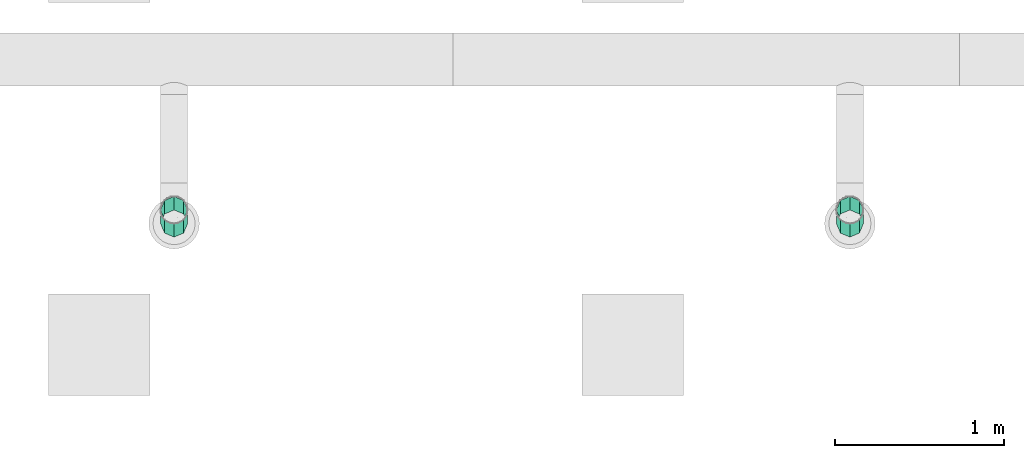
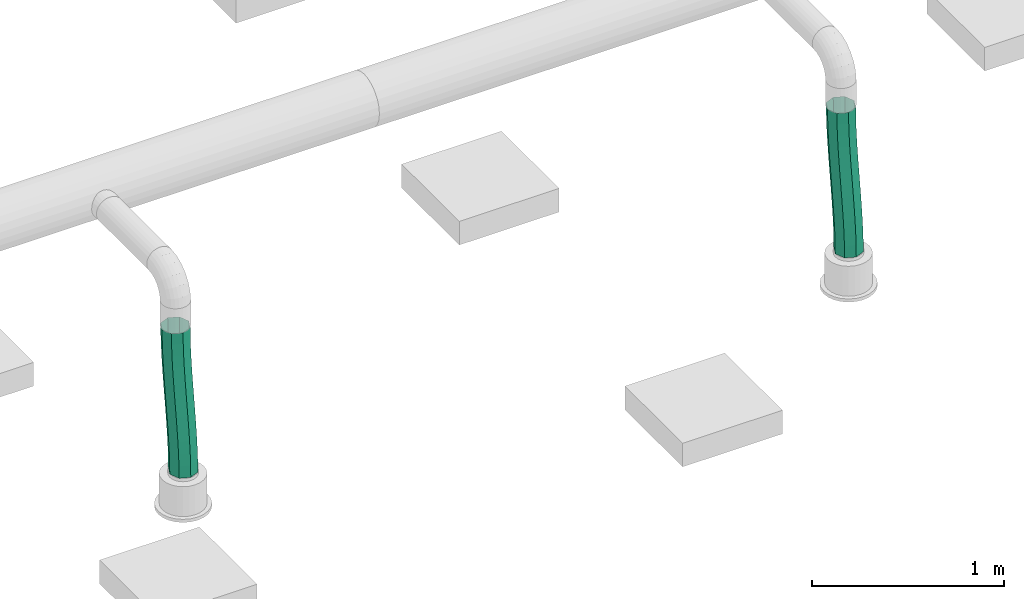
# One storey, part 235 of 374: 2 flow segments.
"""IFC2X3 building model written with IfcOpenShell, lengths in metres."""

import ifcopenshell
import ifcopenshell.guid

model = None  # the IFC model being written
_history = None  # IfcOwnerHistory: only IFC2X3 demands one
_inside = {}  # id of a spatial element -> (the spatial element, [elements in it])
_under = {}  # id of a project, library or spatial element -> (it, [spatial elements below it])
_declared = {}  # id of a project -> (the project, [libraries it declares])
_typed = {}  # id of a type object -> (the type object, [elements of that type])
_made_of = {}  # id of a material, layer set ... -> (it, [elements and type objects made of it])


def new_model(schema):
    """Start an empty IFC model of exactly this schema.

    Asked for "IFC4X3", IfcOpenShell would pick the latest addendum, in which some entities
    have other attributes; the version numbers below select the first issue.
    IFC2X3 requires an IfcOwnerHistory on every rooted entity: one is made here for all.
    """
    global model, _history
    if schema == "IFC4X3":
        model = ifcopenshell.file(schema_version=(4, 3, 0, 0))
    else:
        model = ifcopenshell.file(schema=schema)
    _inside.clear()
    _under.clear()
    _declared.clear()
    _typed.clear()
    _made_of.clear()
    _history = None
    if model.schema == "IFC2X3":
        org = make("IfcOrganization", Name="unknown")
        user = make(
            "IfcPersonAndOrganization",
            ThePerson=make("IfcPerson", FamilyName="unknown"),
            TheOrganization=org,
        )
        app = make(
            "IfcApplication",
            ApplicationDeveloper=org,
            Version="unknown",
            ApplicationFullName="unknown",
            ApplicationIdentifier="unknown",
        )
        _history = make(
            "IfcOwnerHistory",
            OwningUser=user,
            OwningApplication=app,
            ChangeAction="ADDED",
            CreationDate=0,
        )
    return model


def make(cls, **values):
    """One entity of the class cls with the attributes given. An attribute that is None is left unset."""
    return model.create_entity(
        cls, **{name: value for name, value in values.items() if value is not None}
    )


def rooted(cls, **values):
    """An entity with a GlobalId (a new one), such as an element, a storey or a relation."""
    return make(cls, GlobalId=ifcopenshell.guid.new(), OwnerHistory=_history, **values)


def si_unit(unit_type, name, prefix=None):
    """IfcSIUnit, for example si_unit("LENGTHUNIT", "METRE", prefix="MILLI")."""
    return make("IfcSIUnit", UnitType=unit_type, Prefix=prefix, Name=name)


def assignment(units):
    """IfcUnitAssignment: the units of a project."""
    return None if units is None else make("IfcUnitAssignment", Units=units)


def point(xyz):
    """IfcCartesianPoint."""
    return None if xyz is None else make("IfcCartesianPoint", Coordinates=xyz)


def direction(xyz):
    """IfcDirection."""
    return None if xyz is None else make("IfcDirection", DirectionRatios=xyz)


def frame(location, z_axis=None, x_axis=None):
    """IfcAxis2Placement3D, a coordinate frame: its origin and axes. An axis left out is left unset."""
    return make(
        "IfcAxis2Placement3D",
        Location=point(location),
        Axis=direction(z_axis),
        RefDirection=direction(x_axis),
    )


def origin():
    """The frame at (0, 0, 0) with its axes left unset."""
    return frame((0.0, 0.0, 0.0))


def place(relative_to, where):
    """IfcLocalPlacement: puts the frame where relative to a parent placement (None: the world)."""
    return make(
        "IfcLocalPlacement", PlacementRelTo=relative_to, RelativePlacement=where
    )


def context(
    kind, dimensions, precision=None, world=None, true_north=None, identifier=None
):
    """IfcGeometricRepresentationContext, for example the 3D "Model" context."""
    return make(
        "IfcGeometricRepresentationContext",
        ContextIdentifier=identifier,
        ContextType=kind,
        CoordinateSpaceDimension=dimensions,
        Precision=precision,
        WorldCoordinateSystem=world,
        TrueNorth=true_north,
    )


def subcontext(parent, identifier, kind, view, scale=None):
    """IfcGeometricRepresentationSubContext, for example "Body" below "Model"."""
    return make(
        "IfcGeometricRepresentationSubContext",
        ContextIdentifier=identifier,
        ContextType=kind,
        ParentContext=parent,
        TargetScale=scale,
        TargetView=view,
    )


def project(units=None, contexts=None):
    """IfcProject with its units and contexts."""
    return rooted(
        "IfcProject",
        Name="project",
        RepresentationContexts=contexts,
        UnitsInContext=assignment(units),
    )


def spatial(cls, under=None, at=None, **own):
    """A site, building, storey or space (cls), placed at a placement, below another one or the project."""
    s = rooted(cls, ObjectPlacement=at, **own)
    if under is not None:
        _under.setdefault(under.id(), (under, []))[1].append(s)
    return s


def faces_of(points, faces, orient=None, outer=None):
    """IfcFace entities. A face is a list of loops; a loop is a list of indices into points, from 0.

    orient and outer hold one flag for each loop. By default every Orientation is true, the
    first loop of a face is its IfcFaceOuterBound and the others are IfcFaceBound.
    """
    made = []
    for i, loops in enumerate(faces):
        bounds = []
        for j, loop in enumerate(loops):
            is_outer = j == 0 if outer is None else outer[i][j]
            bounds.append(
                make(
                    "IfcFaceOuterBound" if is_outer else "IfcFaceBound",
                    Bound=make("IfcPolyLoop", Polygon=[points[k] for k in loop]),
                    Orientation=True if orient is None else orient[i][j],
                )
            )
        made.append(make("IfcFace", Bounds=bounds))
    return made


def open_shell(faces, orient=None, outer=None):
    """The faces of one IfcOpenShell. surface_model builds it on its shared points."""
    return ("IfcOpenShell", faces, orient, outer)


def surface_model(cls, points, shells):
    """IfcFaceBasedSurfaceModel or IfcShellBasedSurfaceModel (cls): surfaces that need not close."""
    shared = [point(p) for p in points]
    made = [make(c, CfsFaces=faces_of(shared, fs, o, b)) for c, fs, o, b in shells]
    if cls == "IfcFaceBasedSurfaceModel":
        return make(cls, FbsmFaces=made)
    return make(cls, SbsmBoundary=made)


def shape(context_of_items, identifier, shape_type, items):
    """IfcShapeRepresentation: the items that make up one representation, for example the "Body"."""
    return make(
        "IfcShapeRepresentation",
        ContextOfItems=context_of_items,
        RepresentationIdentifier=identifier,
        RepresentationType=shape_type,
        Items=items,
    )


def source(mapping_origin, context_of_items, identifier, shape_type, items):
    """IfcRepresentationMap: a shape defined once, which mapped items show again and again."""
    return make(
        "IfcRepresentationMap",
        MappingOrigin=mapping_origin,
        MappedRepresentation=shape(context_of_items, identifier, shape_type, items),
    )


def transform(
    local_origin,
    x_axis=None,
    y_axis=None,
    z_axis=None,
    scale=None,
    scale2=None,
    scale3=None,
    uniform=True,
):
    """IfcCartesianTransformationOperator3D, or its non-uniform kind. x_axis, y_axis, z_axis: its Axis1, 2, 3."""
    if uniform:
        return make(
            "IfcCartesianTransformationOperator3D",
            Axis1=direction(x_axis),
            Axis2=direction(y_axis),
            LocalOrigin=point(local_origin),
            Scale=scale,
            Axis3=direction(z_axis),
        )
    return make(
        "IfcCartesianTransformationOperator3DnonUniform",
        Axis1=direction(x_axis),
        Axis2=direction(y_axis),
        LocalOrigin=point(local_origin),
        Scale=scale,
        Axis3=direction(z_axis),
        Scale2=scale2,
        Scale3=scale3,
    )


def mapped(mapping_source, mapping_target):
    """IfcMappedItem: shows the shape of a source again, moved by a transform."""
    return make(
        "IfcMappedItem", MappingSource=mapping_source, MappingTarget=mapping_target
    )


def made_of(thing, what):
    """Note that an element or type object is made of a material, layer set ...; save() writes the relation."""
    if what is not None:
        _made_of.setdefault(what.id(), (what, []))[1].append(thing)
    return thing


def element(
    cls,
    number,
    at=None,
    inside=None,
    cuts=None,
    type_object=None,
    material=None,
    context=None,
    identifier="Body",
    shape_type=None,
    held_by="IfcProductDefinitionShape",
    body=None,
    shapes=None,
    **own,
):
    """One element of the class cls, such as IfcWall. Its Tag is "e" and its number.

    at: its placement. inside: the storey or other place that contains it. cuts: it is an
    opening in that element (IfcRelVoidsElement). A single representation is given by context,
    identifier, shape_type and body (its items); several are given by shapes. held_by: the class
    of the entity that holds the representations. save() writes the other relations.
    """
    e = rooted(cls, Tag="e%d" % number, ObjectPlacement=at, **own)
    if body is not None:
        shapes = [shape(context, identifier, shape_type, body)]
    if shapes is not None:
        e.Representation = make(held_by, Representations=shapes)
    if inside is not None:
        _inside.setdefault(inside.id(), (inside, []))[1].append(e)
    if cuts is not None:
        rooted(
            "IfcRelVoidsElement", RelatingBuildingElement=cuts, RelatedOpeningElement=e
        )
    if type_object is not None:
        _typed.setdefault(type_object.id(), (type_object, []))[1].append(e)
    return made_of(e, material)


def aggregate(whole, parts):
    """IfcRelAggregates: a whole, such as a stair, and the parts it consists of."""
    return rooted("IfcRelAggregates", RelatingObject=whole, RelatedObjects=parts)


def save(model, path):
    """Write the relations noted so far, then the file.

    IfcRelAggregates (storeys below a building ...), IfcRelContainedInSpatialStructure (elements
    in a storey), IfcRelDefinesByType, IfcRelAssociatesMaterial and IfcRelDeclares: one each for
    every whole, place, type object, material and project.
    """
    for whole, parts in _under.values():
        aggregate(whole, parts)
    for where, things in _inside.values():
        rooted(
            "IfcRelContainedInSpatialStructure",
            RelatedElements=things,
            RelatingStructure=where,
        )
    for kind, things in _typed.values():
        rooted("IfcRelDefinesByType", RelatedObjects=things, RelatingType=kind)
    for what, things in _made_of.values():
        rooted("IfcRelAssociatesMaterial", RelatedObjects=things, RelatingMaterial=what)
    for by, libraries in _declared.values():
        rooted("IfcRelDeclares", RelatingContext=by, RelatedDefinitions=libraries)
    model.write(path)


model = new_model("IFC2X3")

# Units and contexts
model_context = context("Model", 3, precision=1e-05, world=origin(), true_north=direction((-0.4480736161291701, 0.8939966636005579)))
body_context = subcontext(model_context, "Body", "Model", "MODEL_VIEW")
ifc_project = project(units=[si_unit("LENGTHUNIT", "METRE"), si_unit("AREAUNIT", "SQUARE_METRE"), si_unit("VOLUMEUNIT", "CUBIC_METRE"), si_unit("PLANEANGLEUNIT", "RADIAN"), si_unit("THERMODYNAMICTEMPERATUREUNIT", "KELVIN"), si_unit("MASSUNIT", "GRAM", prefix="KILO"), si_unit("TIMEUNIT", "SECOND")], contexts=[model_context])

# Site, building, storey
site_placement = place(None, origin())
site = spatial("IfcSite", under=ifc_project, at=site_placement, Name="Site 1", CompositionType="ELEMENT")
building_placement = place(site_placement, origin())
building = spatial("IfcBuilding", under=site, at=building_placement, Name="Undefined", CompositionType="ELEMENT")
storey_placement = place(building_placement, origin())
storey = spatial("IfcBuildingStorey", under=building, at=storey_placement, Name="Rez de chauss\x8ee", CompositionType="ELEMENT", Elevation=0.0)

# Flow segments
shared_shape_1 = source(origin(), body_context, "Body", "SurfaceModel", [
    surface_model("IfcFaceBasedSurfaceModel", [(0.095911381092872, 1.776356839e-15, 0.0), (0.057778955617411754, 0.04790565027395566, 0.0), (0.0, 0.0, 0.0), (0.039908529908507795, -0.04643643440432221, -1.0802072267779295e-06), (-0.05576709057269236, -0.04966194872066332, -0.0010921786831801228), (-0.014403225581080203, -0.09480686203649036, -0.0010661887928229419), (-0.10982704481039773, -0.10061373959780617, -0.0030471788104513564), (-0.067362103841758, -0.1447244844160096, -0.002982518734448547), (-0.1625398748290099, -0.1524448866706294, -0.005638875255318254), (-0.11930632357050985, -0.19580250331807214, -0.005537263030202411), (-0.21426131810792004, -0.20475372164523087, -0.00864508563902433), (-0.1705741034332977, -0.24765412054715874, -0.008517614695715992), (-0.2653408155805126, -0.25714539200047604, -0.01184746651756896), (-0.22150366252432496, -0.29989253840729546, -0.01171076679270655), (-0.31612044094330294, -0.3092305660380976, -0.01503138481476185), (-0.27243322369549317, -0.3521309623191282, -0.014903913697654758), (-0.3669345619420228, -0.36062497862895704, -0.017985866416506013), (-0.3237010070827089, -0.4039825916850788, -0.017884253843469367), (-0.4181101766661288, -0.4109498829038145, -0.02050364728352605), (-0.3756452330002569, -0.4550606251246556, -0.020438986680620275), (-0.469967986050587, -0.459833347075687, -0.0223813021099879), (-0.42860412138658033, -0.5049782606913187, -0.0223553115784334), (-0.5228244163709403, -0.5069122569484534, -0.0234193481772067), (-0.4829158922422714, -0.5533486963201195, -0.02342042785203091), (-0.5770511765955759, -0.5518794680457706, -0.02342153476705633), (-0.5389187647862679, -0.5997851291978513, -0.023421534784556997), (0.030535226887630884, 0.08155715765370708, -0.04329420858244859), (-0.027979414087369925, 0.033042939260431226, -0.043293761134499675), (-0.08434932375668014, -0.01715397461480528, -0.044397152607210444), (-0.1388653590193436, -0.06853413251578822, -0.046368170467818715), (-0.19189655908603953, -0.12067723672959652, -0.04897517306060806), (-0.24380591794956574, -0.1731754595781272, -0.051992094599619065), (-0.29494752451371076, -0.22563061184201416, -0.05519829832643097), (-0.34566504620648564, -0.2776523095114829, -0.05837839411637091), (-0.3962912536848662, -0.3288573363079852, -0.06132216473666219), (-0.44714849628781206, -0.3788702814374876, -0.0638246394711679), (-0.49855021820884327, -0.42732537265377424, -0.06568627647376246), (-0.5508038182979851, -0.4738693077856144, -0.06671310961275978), (-0.6042948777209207, -0.5182279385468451, -0.06671574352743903), (0.030139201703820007, 0.08124192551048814, -0.10452146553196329), (-0.02763975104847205, 0.033336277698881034, -0.10452146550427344), (-0.0834068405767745, -0.016325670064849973, -0.10561364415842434), (-0.13746679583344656, -0.0672774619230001, -0.10756864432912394), (-0.19017962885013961, -0.11910861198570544, -0.11016034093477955), (-0.24190107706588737, -0.17141745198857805, -0.11316655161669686), (-0.2929805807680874, -0.2238091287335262, -0.11636893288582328), (-0.343760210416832, -0.275894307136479, -0.11955285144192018), (-0.39457433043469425, -0.32728871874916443, -0.12250733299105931), (-0.44574993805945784, -0.37761361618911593, -0.12502511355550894), (-0.4976077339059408, -0.42649706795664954, -0.12690276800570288), (-0.5504641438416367, -0.4735759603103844, -0.1279408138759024), (-0.6046908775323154, -0.5185431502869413, -0.12794300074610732), (0.056822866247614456, 0.04714461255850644, -0.14781567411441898), (0.000820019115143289, 0.0007081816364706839, -0.14781675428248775), (-0.05349173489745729, -0.047662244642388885, -0.14888186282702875), (-0.10645061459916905, -0.09757986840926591, -0.15079819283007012), (-0.15839483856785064, -0.14865789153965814, -0.15335293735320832), (-0.209662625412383, -0.2005095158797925, -0.15633328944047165), (-0.26059219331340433, -0.25274794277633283, -0.15952644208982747), (-0.31152176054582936, -0.3049863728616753, -0.1627195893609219), (-0.3627895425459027, -0.35683800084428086, -0.16569992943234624), (-0.41473375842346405, -0.40791602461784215, -0.16825466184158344), (-0.4676926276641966, -0.4578336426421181, -0.17017098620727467), (-0.5220043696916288, -0.5062040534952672, -0.17123610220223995), (-0.578007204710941, -0.5526404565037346, -0.17123720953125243), (0.0949552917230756, -0.0007610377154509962, -0.14781567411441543), (0.04072854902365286, -0.045728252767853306, -0.14781783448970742), (-0.012127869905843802, -0.09280715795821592, -0.14885587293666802), (-0.06398567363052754, -0.14169061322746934, -0.15073353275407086), (-0.11516128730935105, -0.1920155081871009, -0.15325132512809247), (-0.16597541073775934, -0.2434099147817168, -0.15620581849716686), (-0.21675504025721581, -0.2954950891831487, -0.15938974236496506), (-0.2678345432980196, -0.3478867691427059, -0.16259211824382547), (-0.31955598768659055, -0.4001956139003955, -0.16559831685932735), (-0.3722688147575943, -0.45202676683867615, -0.16819000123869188), (-0.4263287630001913, -0.5029785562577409, -0.17014499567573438), (-0.4820958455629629, -0.552640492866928, -0.17123718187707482), (-0.5398747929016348, -0.6005461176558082, -0.1712372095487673), (0.12219902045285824, -0.034412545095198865, -0.10452146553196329), (0.0687079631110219, -0.07877119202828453, -0.1045240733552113), (0.016454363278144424, -0.12531513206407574, -0.1055508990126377), (-0.034947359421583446, -0.1737702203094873, -0.1074125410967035), (-0.08580460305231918, -0.22378315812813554, -0.10991502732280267), (-0.13643081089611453, -0.27498817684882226, -0.11285880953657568), (-0.18714833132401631, -0.3270098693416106, -0.11603891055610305), (-0.2382899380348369, -0.37946502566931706, -0.11924510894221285), (-0.2901992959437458, -0.4319632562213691, -0.12226201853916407), (-0.3432304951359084, -0.48410636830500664, -0.12486900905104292), (-0.397746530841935, -0.5354865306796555, -0.12684002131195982), (-0.4541164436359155, -0.5856834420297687, -0.12794342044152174), (-0.5126310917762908, -0.6341976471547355, -0.1279430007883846), (0.12259504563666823, -0.03409731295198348, -0.04329420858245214), (0.06836830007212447, -0.07906453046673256, -0.04329636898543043), (0.015511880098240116, -0.12614343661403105, -0.044334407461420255), (-0.036345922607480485, -0.17502689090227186, -0.04621206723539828), (-0.08752153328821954, -0.22535178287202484, -0.048729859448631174), (-0.13833565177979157, -0.2767461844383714, -0.05168435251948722), (-0.18911527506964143, -0.32883135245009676, -0.054868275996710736), (-0.24019477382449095, -0.38122302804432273, -0.05807065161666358), (-0.2919162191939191, -0.4335318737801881, -0.06107685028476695), (-0.3446290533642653, -0.48536303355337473, -0.0636685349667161), (-0.3986890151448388, -0.5363148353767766, -0.0656235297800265), (-0.45445611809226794, -0.585976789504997, -0.06671571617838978), (-0.5122350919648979, -0.6338824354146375, -0.06671574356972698)], [open_shell([[[0, 1, 2]], [[2, 3, 0]], [[3, 2, 4]], [[4, 5, 3]], [[5, 4, 6]], [[6, 7, 5]], [[7, 6, 8]], [[8, 9, 7]], [[9, 8, 10]], [[10, 11, 9]], [[11, 10, 12]], [[12, 13, 11]], [[13, 12, 14]], [[14, 15, 13]], [[15, 14, 16]], [[16, 17, 15]], [[17, 16, 18]], [[18, 19, 17]], [[19, 18, 20]], [[20, 21, 19]], [[21, 20, 22]], [[22, 23, 21]], [[23, 22, 24]], [[24, 25, 23]], [[1, 26, 27]], [[27, 2, 1]], [[2, 27, 28]], [[28, 4, 2]], [[4, 28, 29]], [[29, 6, 4]], [[6, 29, 30]], [[30, 8, 6]], [[8, 30, 31]], [[31, 10, 8]], [[10, 31, 32]], [[32, 12, 10]], [[12, 32, 33]], [[33, 14, 12]], [[14, 33, 34]], [[34, 16, 14]], [[16, 34, 35]], [[35, 18, 16]], [[18, 35, 36]], [[36, 20, 18]], [[20, 36, 37]], [[37, 22, 20]], [[22, 37, 38]], [[38, 24, 22]], [[26, 39, 40]], [[40, 27, 26]], [[27, 40, 41]], [[41, 28, 27]], [[28, 41, 42]], [[42, 29, 28]], [[29, 42, 43]], [[43, 30, 29]], [[30, 43, 44]], [[44, 31, 30]], [[31, 44, 45]], [[45, 32, 31]], [[32, 45, 46]], [[46, 33, 32]], [[33, 46, 47]], [[47, 34, 33]], [[34, 47, 48]], [[48, 35, 34]], [[35, 48, 49]], [[49, 36, 35]], [[36, 49, 50]], [[50, 37, 36]], [[37, 50, 51]], [[51, 38, 37]], [[39, 52, 53]], [[53, 40, 39]], [[40, 53, 54]], [[54, 41, 40]], [[41, 54, 55]], [[55, 42, 41]], [[42, 55, 56]], [[56, 43, 42]], [[43, 56, 57]], [[57, 44, 43]], [[44, 57, 58]], [[58, 45, 44]], [[45, 58, 59]], [[59, 46, 45]], [[46, 59, 60]], [[60, 47, 46]], [[47, 60, 61]], [[61, 48, 47]], [[48, 61, 62]], [[62, 49, 48]], [[49, 62, 63]], [[63, 50, 49]], [[50, 63, 64]], [[64, 51, 50]], [[52, 65, 66]], [[66, 53, 52]], [[53, 66, 67]], [[67, 54, 53]], [[54, 67, 68]], [[68, 55, 54]], [[55, 68, 69]], [[69, 56, 55]], [[56, 69, 70]], [[70, 57, 56]], [[57, 70, 71]], [[71, 58, 57]], [[58, 71, 72]], [[72, 59, 58]], [[59, 72, 73]], [[73, 60, 59]], [[60, 73, 74]], [[74, 61, 60]], [[61, 74, 75]], [[75, 62, 61]], [[62, 75, 76]], [[76, 63, 62]], [[63, 76, 77]], [[77, 64, 63]], [[65, 78, 79]], [[79, 66, 65]], [[66, 79, 80]], [[80, 67, 66]], [[67, 80, 81]], [[81, 68, 67]], [[68, 81, 82]], [[82, 69, 68]], [[69, 82, 83]], [[83, 70, 69]], [[70, 83, 84]], [[84, 71, 70]], [[71, 84, 85]], [[85, 72, 71]], [[72, 85, 86]], [[86, 73, 72]], [[73, 86, 87]], [[87, 74, 73]], [[74, 87, 88]], [[88, 75, 74]], [[75, 88, 89]], [[89, 76, 75]], [[76, 89, 90]], [[90, 77, 76]], [[78, 91, 92]], [[92, 79, 78]], [[79, 92, 93]], [[93, 80, 79]], [[80, 93, 94]], [[94, 81, 80]], [[81, 94, 95]], [[95, 82, 81]], [[82, 95, 96]], [[96, 83, 82]], [[83, 96, 97]], [[97, 84, 83]], [[84, 97, 98]], [[98, 85, 84]], [[85, 98, 99]], [[99, 86, 85]], [[86, 99, 100]], [[100, 87, 86]], [[87, 100, 101]], [[101, 88, 87]], [[88, 101, 102]], [[102, 89, 88]], [[89, 102, 103]], [[103, 90, 89]], [[91, 0, 3]], [[3, 92, 91]], [[92, 3, 5]], [[5, 93, 92]], [[93, 5, 7]], [[7, 94, 93]], [[94, 7, 9]], [[9, 95, 94]], [[95, 9, 11]], [[11, 96, 95]], [[96, 11, 13]], [[13, 97, 96]], [[97, 13, 15]], [[15, 98, 97]], [[98, 15, 17]], [[17, 99, 98]], [[99, 17, 19]], [[19, 100, 99]], [[100, 19, 21]], [[21, 101, 100]], [[101, 21, 23]], [[23, 102, 101]], [[102, 23, 25]], [[25, 103, 102]]])]),
])
flow_segment_1_placement = place(storey_placement, origin())
element("IfcFlowSegment", 1, at=flow_segment_1_placement, inside=storey, Name="Tube flexible", ObjectType="Tube flexible", context=body_context, shape_type="MappedRepresentation", body=[
    mapped(shared_shape_1, transform((18.233432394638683, 2.0149472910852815, 3.4049618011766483), x_axis=(-0.2443032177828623, -0.5728987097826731, 0.7823701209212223), y_axis=(0.2946538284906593, 0.724810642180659, 0.6227589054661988), z_axis=(-0.923847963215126, 0.3826703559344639, -0.008266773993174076))),
])
shared_shape_2 = source(origin(), body_context, "Body", "SurfaceModel", [
    surface_model("IfcFaceBasedSurfaceModel", [(0.09591138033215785, 8.8817842e-16, 0.0), (0.057778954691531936, 0.04790565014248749, -1.776356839e-15), (0.0, 0.0, 0.0), (0.0399085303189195, -0.04643643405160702, -1.0801864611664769e-06), (-0.05576708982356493, -0.0496619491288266, -0.001092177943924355), (-0.014403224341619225, -0.09480686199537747, -0.0010661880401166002), (-0.10982704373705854, -0.10061374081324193, -0.003047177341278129), (-0.06736210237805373, -0.14472448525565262, -0.002982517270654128), (-0.16253987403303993, -0.1524448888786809, -0.005638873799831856), (-0.1193063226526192, -0.1958025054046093, -0.00553726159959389), (-0.21426131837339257, -0.2047537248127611, -0.008645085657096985), (-0.17057410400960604, -0.2476541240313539, -0.008517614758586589), (-0.26534081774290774, -0.25714539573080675, -0.011847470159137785), (-0.22150366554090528, -0.29989254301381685, -0.011710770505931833), (-0.3161204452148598, -0.30923056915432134, -0.01503139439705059), (-0.2724332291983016, -0.3521309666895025, -0.014903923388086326), (-0.3669345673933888, -0.36062497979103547, -0.017985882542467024), (-0.32370101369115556, -0.40398259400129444, -0.017884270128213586), (-0.41811018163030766, -0.4109498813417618, -0.020503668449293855), (-0.3756452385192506, -0.4550606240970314, -0.020439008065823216), (-0.4699679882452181, -0.45983334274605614, -0.022381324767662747), (-0.4286041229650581, -0.5049782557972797, -0.022355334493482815), (-0.5228244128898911, -0.5069122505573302, -0.023419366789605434), (-0.4829158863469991, -0.5533486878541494, -0.023420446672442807), (-0.577051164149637, -0.5518794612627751, -0.023421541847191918), (-0.538918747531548, -0.5997851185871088, -0.023421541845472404), (0.03053522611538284, 0.08155715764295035, -0.043294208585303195), (-0.02797941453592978, 0.03304293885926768, -0.043293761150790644), (-0.084349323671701, -0.017153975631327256, -0.04439715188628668), (-0.1388653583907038, -0.06853413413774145, -0.046368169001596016), (-0.19189655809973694, -0.12067723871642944, -0.04897517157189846), (-0.2438059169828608, -0.17317546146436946, -0.05199209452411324), (-0.2949475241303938, -0.22563061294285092, -0.05519830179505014), (-0.3456650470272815, -0.2776523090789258, -0.058378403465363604), (-0.3962912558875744, -0.32885733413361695, -0.06132218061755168), (-0.4471484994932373, -0.3788702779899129, -0.06382466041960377), (-0.49855022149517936, -0.4273253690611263, -0.06568629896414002), (-0.5508038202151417, -0.47386930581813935, -0.06671312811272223), (-0.6042948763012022, -0.5182279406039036, -0.06671575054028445), (0.030139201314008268, 0.08124192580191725, -0.10452146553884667), (-0.027639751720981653, 0.03333627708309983, -0.10452146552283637), (-0.0834068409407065, -0.016325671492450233, -0.10561364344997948), (-0.13746679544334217, -0.06727746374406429, -0.10756864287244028), (-0.19017962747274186, -0.11910861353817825, -0.11016033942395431), (-0.24190107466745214, -0.17141745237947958, -0.11316655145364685), (-0.29298057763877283, -0.22380912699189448, -0.11636893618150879), (-0.34376020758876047, -0.2758943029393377, -0.1195528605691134), (-0.39457432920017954, -0.32728871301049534, -0.12250734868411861), (-0.4457499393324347, -0.37761361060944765, -0.12502513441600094), (-0.49760773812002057, -0.42649706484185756, -0.12690279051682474), (-0.5504641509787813, -0.47357596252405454, -0.127940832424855), (-0.6046908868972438, -0.5185431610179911, -0.1279430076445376), (0.056822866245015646, 0.0471446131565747, -0.14781567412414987), (0.0008200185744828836, 0.0007081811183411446, -0.1478167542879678), (-0.05349173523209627, -0.04766224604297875, -0.14888186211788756), (-0.10645061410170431, -0.09757987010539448, -0.15079819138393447), (-0.1583948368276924, -0.1486578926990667, -0.1533529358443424), (-0.20966262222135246, -0.2005095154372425, -0.1563332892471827), (-0.2605921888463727, -0.2527479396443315, -0.15952644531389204), (-0.3115217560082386, -0.30498636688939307, -0.16271959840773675), (-0.3627895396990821, -0.356837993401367, -0.16569994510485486), (-0.41473375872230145, -0.4079160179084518, -0.1682546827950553), (-0.4676926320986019, -0.4578336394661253, -0.170171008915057), (-0.5220043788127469, -0.5062040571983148, -0.1712361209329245), (-0.5780072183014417, -0.5526404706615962, -0.17123721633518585), (0.09495529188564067, -0.0007610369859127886, -0.1478156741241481), (0.04072854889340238, -0.04572825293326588, -0.1478178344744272), (-0.012127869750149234, -0.09280715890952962, -0.14885587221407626), (-0.06398567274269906, -0.14169061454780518, -0.15073353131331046), (-0.11516128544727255, -0.19201550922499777, -0.15325132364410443), (-0.16597540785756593, -0.24340991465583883, -0.15620581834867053), (-0.21675503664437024, -0.2954950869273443, -0.15938974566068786), (-0.2678345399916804, -0.3478867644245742, -0.16259212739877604), (-0.3195559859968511, -0.4001956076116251, -0.16559833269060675), (-0.3722688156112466, -0.45202676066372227, -0.16819002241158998), (-0.42632876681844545, -0.5029785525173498, -0.1701450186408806), (-0.48209585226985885, -0.5526404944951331, -0.171237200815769), (-0.5398748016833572, -0.6005461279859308, -0.17123721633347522), (0.12219902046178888, -0.03441254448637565, -0.10452146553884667), (0.06870796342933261, -0.07877119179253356, -0.10452407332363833), (0.016454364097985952, -0.12531513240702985, -0.10555089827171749), (-0.03494735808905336, -0.17377022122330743, -0.10741253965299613), (-0.08580460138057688, -0.22378315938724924, -0.1099150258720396), (-0.13643080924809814, -0.2749881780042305, -0.1128588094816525), (-0.18714833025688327, -0.327009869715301, -0.11603891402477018), (-0.23828993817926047, -0.3794650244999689, -0.1192451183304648), (-0.29019929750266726, -0.4319632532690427, -0.12226203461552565), (-0.34323049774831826, -0.48410636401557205, -0.12486903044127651), (-0.39774653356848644, -0.5354865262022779, -0.1268400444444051), (-0.45411644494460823, -0.585683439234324, -0.12794343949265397), (-0.5126310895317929, -0.6341976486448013, -0.1279430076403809), (0.12259504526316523, -0.03409731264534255, -0.043294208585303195), (0.06836830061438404, -0.07906453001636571, -0.043296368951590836), (0.015511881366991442, -0.12614343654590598, -0.04433440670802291), (-0.03634592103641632, -0.17502689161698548, -0.04621206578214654), (-0.08752153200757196, -0.22535178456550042, -0.048729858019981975), (-0.13833565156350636, -0.27674618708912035, -0.05168435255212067), (-0.18911527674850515, -0.32883135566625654, -0.05486827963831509), (-0.24019477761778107, -0.381223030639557, -0.05807066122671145), (-0.2919162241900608, -0.4335318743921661, -0.06107686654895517), (-0.3446290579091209, -0.4853630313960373, -0.06366855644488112), (-0.39868901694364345, -0.5363148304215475, -0.06562355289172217), (-0.45445611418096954, -0.5859767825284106, -0.06671573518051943), (-0.5122350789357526, -0.6338824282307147, -0.06671575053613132)], [open_shell([[[0, 1, 2]], [[2, 3, 0]], [[3, 2, 4]], [[4, 5, 3]], [[5, 4, 6]], [[6, 7, 5]], [[7, 6, 8]], [[8, 9, 7]], [[9, 8, 10]], [[10, 11, 9]], [[11, 10, 12]], [[12, 13, 11]], [[13, 12, 14]], [[14, 15, 13]], [[15, 14, 16]], [[16, 17, 15]], [[17, 16, 18]], [[18, 19, 17]], [[19, 18, 20]], [[20, 21, 19]], [[21, 20, 22]], [[22, 23, 21]], [[23, 22, 24]], [[24, 25, 23]], [[1, 26, 27]], [[27, 2, 1]], [[2, 27, 28]], [[28, 4, 2]], [[4, 28, 29]], [[29, 6, 4]], [[6, 29, 30]], [[30, 8, 6]], [[8, 30, 31]], [[31, 10, 8]], [[10, 31, 32]], [[32, 12, 10]], [[12, 32, 33]], [[33, 14, 12]], [[14, 33, 34]], [[34, 16, 14]], [[16, 34, 35]], [[35, 18, 16]], [[18, 35, 36]], [[36, 20, 18]], [[20, 36, 37]], [[37, 22, 20]], [[22, 37, 38]], [[38, 24, 22]], [[26, 39, 40]], [[40, 27, 26]], [[27, 40, 41]], [[41, 28, 27]], [[28, 41, 42]], [[42, 29, 28]], [[29, 42, 43]], [[43, 30, 29]], [[30, 43, 44]], [[44, 31, 30]], [[31, 44, 45]], [[45, 32, 31]], [[32, 45, 46]], [[46, 33, 32]], [[33, 46, 47]], [[47, 34, 33]], [[34, 47, 48]], [[48, 35, 34]], [[35, 48, 49]], [[49, 36, 35]], [[36, 49, 50]], [[50, 37, 36]], [[37, 50, 51]], [[51, 38, 37]], [[39, 52, 53]], [[53, 40, 39]], [[40, 53, 54]], [[54, 41, 40]], [[41, 54, 55]], [[55, 42, 41]], [[42, 55, 56]], [[56, 43, 42]], [[43, 56, 57]], [[57, 44, 43]], [[44, 57, 58]], [[58, 45, 44]], [[45, 58, 59]], [[59, 46, 45]], [[46, 59, 60]], [[60, 47, 46]], [[47, 60, 61]], [[61, 48, 47]], [[48, 61, 62]], [[62, 49, 48]], [[49, 62, 63]], [[63, 50, 49]], [[50, 63, 64]], [[64, 51, 50]], [[52, 65, 66]], [[66, 53, 52]], [[53, 66, 67]], [[67, 54, 53]], [[54, 67, 68]], [[68, 55, 54]], [[55, 68, 69]], [[69, 56, 55]], [[56, 69, 70]], [[70, 57, 56]], [[57, 70, 71]], [[71, 58, 57]], [[58, 71, 72]], [[72, 59, 58]], [[59, 72, 73]], [[73, 60, 59]], [[60, 73, 74]], [[74, 61, 60]], [[61, 74, 75]], [[75, 62, 61]], [[62, 75, 76]], [[76, 63, 62]], [[63, 76, 77]], [[77, 64, 63]], [[65, 78, 79]], [[79, 66, 65]], [[66, 79, 80]], [[80, 67, 66]], [[67, 80, 81]], [[81, 68, 67]], [[68, 81, 82]], [[82, 69, 68]], [[69, 82, 83]], [[83, 70, 69]], [[70, 83, 84]], [[84, 71, 70]], [[71, 84, 85]], [[85, 72, 71]], [[72, 85, 86]], [[86, 73, 72]], [[73, 86, 87]], [[87, 74, 73]], [[74, 87, 88]], [[88, 75, 74]], [[75, 88, 89]], [[89, 76, 75]], [[76, 89, 90]], [[90, 77, 76]], [[78, 91, 92]], [[92, 79, 78]], [[79, 92, 93]], [[93, 80, 79]], [[80, 93, 94]], [[94, 81, 80]], [[81, 94, 95]], [[95, 82, 81]], [[82, 95, 96]], [[96, 83, 82]], [[83, 96, 97]], [[97, 84, 83]], [[84, 97, 98]], [[98, 85, 84]], [[85, 98, 99]], [[99, 86, 85]], [[86, 99, 100]], [[100, 87, 86]], [[87, 100, 101]], [[101, 88, 87]], [[88, 101, 102]], [[102, 89, 88]], [[89, 102, 103]], [[103, 90, 89]], [[91, 0, 3]], [[3, 92, 91]], [[92, 3, 5]], [[5, 93, 92]], [[93, 5, 7]], [[7, 94, 93]], [[94, 7, 9]], [[9, 95, 94]], [[95, 9, 11]], [[11, 96, 95]], [[96, 11, 13]], [[13, 97, 96]], [[97, 13, 15]], [[15, 98, 97]], [[98, 15, 17]], [[17, 99, 98]], [[99, 17, 19]], [[19, 100, 99]], [[100, 19, 21]], [[21, 101, 100]], [[101, 21, 23]], [[23, 102, 101]], [[102, 23, 25]], [[25, 103, 102]]])]),
])
flow_segment_2_placement = place(storey_placement, origin())
element("IfcFlowSegment", 2, at=flow_segment_2_placement, inside=storey, Name="Tube flexible", ObjectType="Tube flexible", context=body_context, shape_type="MappedRepresentation", body=[
    mapped(shared_shape_2, transform((14.233432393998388, 2.014947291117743, 3.404961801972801), x_axis=(-0.24430321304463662, -0.5728987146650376, 0.78237011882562), y_axis=(0.29465383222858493, 0.7248106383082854, 0.6227589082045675), z_axis=(-0.9238479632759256, 0.38267035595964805, -0.008266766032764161))),
])

save(model, "model.ifc")
